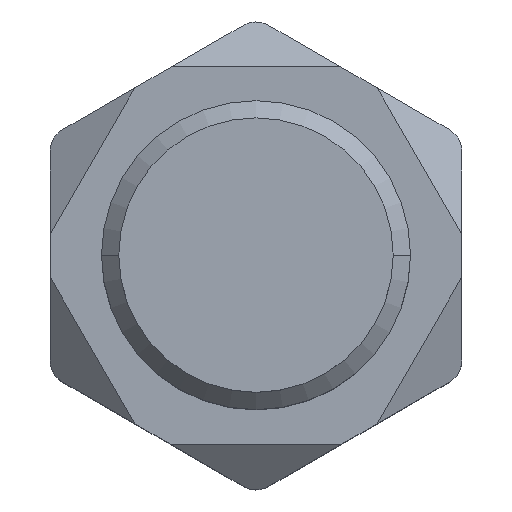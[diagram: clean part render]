
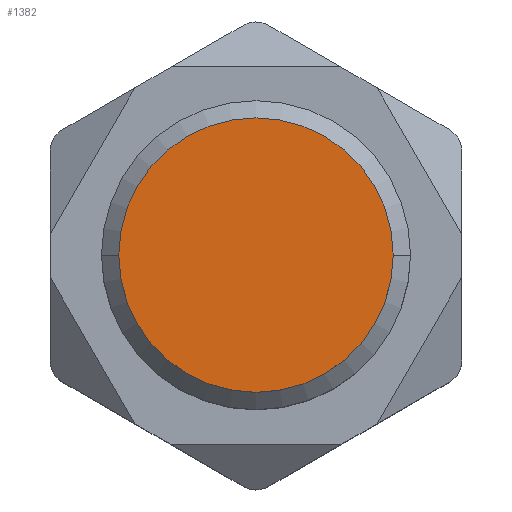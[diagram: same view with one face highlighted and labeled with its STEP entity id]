
A CAD part, top view. The second image highlights one B-rep face of the part: STEP entity #1382.
In plain terms, the highlighted planar face has unit normal (0, 0, 1).
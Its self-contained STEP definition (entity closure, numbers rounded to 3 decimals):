
#145 = PLANE ( 'NONE',  #1184 ) ;
#146 = AXIS2_PLACEMENT_3D ( 'NONE', #724, #712, #690 ) ;
#205 = VERTEX_POINT ( 'NONE', #671 ) ;
#223 = EDGE_CURVE ( 'NONE', #1572, #205, #1214, .T. ) ;
#632 = CIRCLE ( 'NONE', #1537, 2.665 ) ;
#671 = CARTESIAN_POINT ( 'NONE',  ( -2.665, 0., 0. ) ) ;
#678 = CARTESIAN_POINT ( 'NONE',  ( 2.665, 0., 0. ) ) ;
#690 = DIRECTION ( 'NONE',  ( -1., 0., 0. ) ) ;
#712 = DIRECTION ( 'NONE',  ( 0., 0., -1. ) ) ;
#724 = CARTESIAN_POINT ( 'NONE',  ( 0., 0., 0. ) ) ;
#870 = EDGE_LOOP ( 'NONE', ( #1192, #1592 ) ) ;
#1016 = DIRECTION ( 'NONE',  ( 0., 0., 1. ) ) ;
#1035 = DIRECTION ( 'NONE',  ( 0., 0., -1. ) ) ;
#1042 = DIRECTION ( 'NONE',  ( -1., 0., 0. ) ) ;
#1043 = CARTESIAN_POINT ( 'NONE',  ( 0., 0., 0. ) ) ;
#1055 = CARTESIAN_POINT ( 'NONE',  ( 0., 0., 0. ) ) ;
#1073 = EDGE_CURVE ( 'NONE', #205, #1572, #632, .T. ) ;
#1184 = AXIS2_PLACEMENT_3D ( 'NONE', #1055, #1016, #1514 ) ;
#1192 = ORIENTED_EDGE ( 'NONE', *, *, #1073, .F. ) ;
#1214 = CIRCLE ( 'NONE', #146, 2.665 ) ;
#1382 = ADVANCED_FACE ( 'NONE', ( #1609 ), #145, .T. ) ;
#1514 = DIRECTION ( 'NONE',  ( 1., 0., 0. ) ) ;
#1537 = AXIS2_PLACEMENT_3D ( 'NONE', #1043, #1035, #1042 ) ;
#1572 = VERTEX_POINT ( 'NONE', #678 ) ;
#1592 = ORIENTED_EDGE ( 'NONE', *, *, #223, .F. ) ;
#1609 = FACE_OUTER_BOUND ( 'NONE', #870, .T. ) ;
